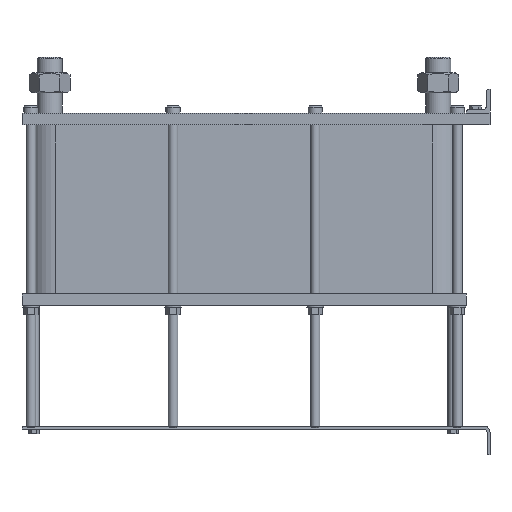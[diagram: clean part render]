
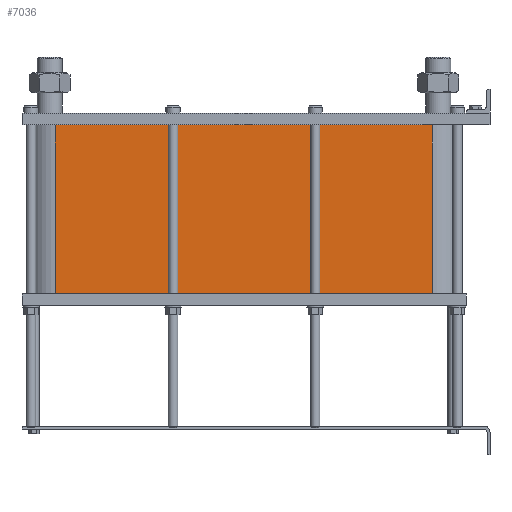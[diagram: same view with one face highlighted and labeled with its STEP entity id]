
A CAD part, left-side view. The second image highlights one B-rep face of the part: STEP entity #7036.
In plain terms, the highlighted planar face has unit normal (-1, 0, 0).
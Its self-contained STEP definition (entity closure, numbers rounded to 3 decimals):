
#999=LINE('',#15640,#1553);
#1031=LINE('',#15723,#1585);
#1032=LINE('',#15726,#1586);
#1033=LINE('',#15727,#1587);
#1553=VECTOR('',#9658,10.);
#1585=VECTOR('',#9736,10.);
#1586=VECTOR('',#9741,10.);
#1587=VECTOR('',#9742,10.);
#2117=FACE_OUTER_BOUND('',#2671,.T.);
#2671=EDGE_LOOP('',(#6246,#6247,#6248,#6249));
#3527=VERTEX_POINT('',#15634);
#3529=VERTEX_POINT('',#15638);
#3556=VERTEX_POINT('',#15720);
#3557=VERTEX_POINT('',#15722);
#4425=EDGE_CURVE('',#3529,#3527,#999,.T.);
#4466=EDGE_CURVE('',#3557,#3556,#1031,.T.);
#4468=EDGE_CURVE('',#3527,#3556,#1032,.T.);
#4469=EDGE_CURVE('',#3557,#3529,#1033,.T.);
#6246=ORIENTED_EDGE('',*,*,#4468,.F.);
#6247=ORIENTED_EDGE('',*,*,#4425,.F.);
#6248=ORIENTED_EDGE('',*,*,#4469,.F.);
#6249=ORIENTED_EDGE('',*,*,#4466,.T.);
#6608=PLANE('',#7812);
#7036=ADVANCED_FACE('',(#2117),#6608,.T.);
#7812=AXIS2_PLACEMENT_3D('',#15725,#9739,#9740);
#9658=DIRECTION('',(0.,0.,-1.));
#9736=DIRECTION('',(0.,0.,-1.));
#9739=DIRECTION('center_axis',(-1.,0.,0.));
#9740=DIRECTION('ref_axis',(0.,1.,0.));
#9741=DIRECTION('',(0.,1.,0.));
#9742=DIRECTION('',(0.,-1.,0.));
#15634=CARTESIAN_POINT('',(-72.,97.5,-285.2));
#15638=CARTESIAN_POINT('',(-72.,97.5,0.));
#15640=CARTESIAN_POINT('',(-72.,97.5,0.));
#15720=CARTESIAN_POINT('',(-72.,733.5,-285.2));
#15722=CARTESIAN_POINT('',(-72.,733.5,0.));
#15723=CARTESIAN_POINT('',(-72.,733.5,0.));
#15725=CARTESIAN_POINT('Origin',(-72.,97.5,0.));
#15726=CARTESIAN_POINT('',(-72.,256.5,-285.2));
#15727=CARTESIAN_POINT('',(-72.,733.5,0.));
